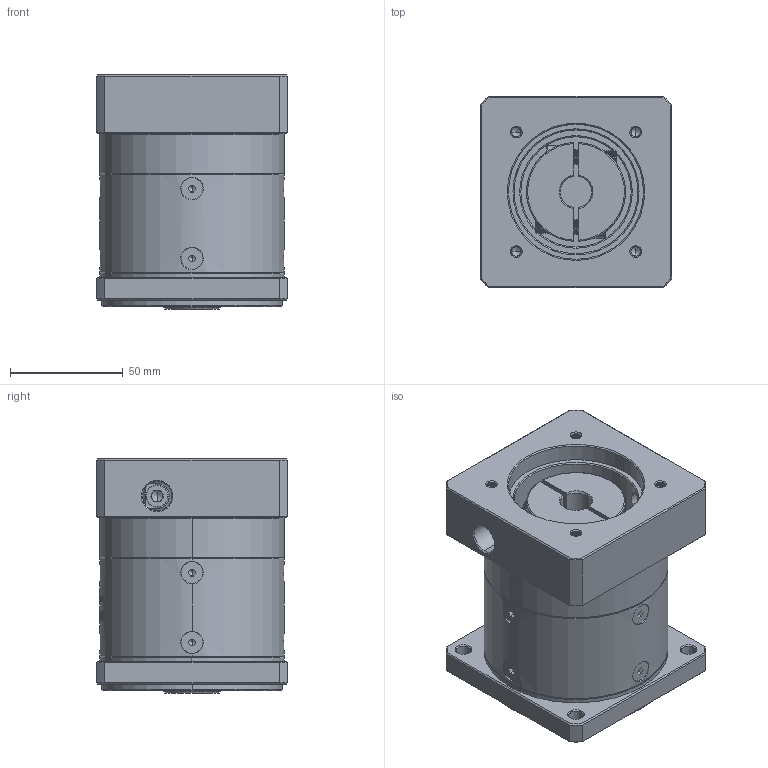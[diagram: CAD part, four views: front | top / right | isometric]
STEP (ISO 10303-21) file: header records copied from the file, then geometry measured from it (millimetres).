
FILE_DESCRIPTION (( 'STEP AP214' ), '1' );
FILE_NAME ('ZF80-K15-L1-14-60-75-M5.step', '2022-09-16T05:23:02', ( '' ), ( 'Microsoft' ), 'SwSTEP 2.0', 'SolidWorks 2016', '' );
FILE_SCHEMA (( 'AUTOMOTIVE_DESIGN' ));
Length unit declared in the file: millimetre
Products named in the file (1): ZF80-K15-L1-14-60-75-M5
Bounding box: 85 x 85 x 104 mm (x, y, z)
Volume: 539493.6 mm3; surface area: 86592 mm2
Topology: 13 solids, 13 shells, 1938 faces, 5022 edges, 3177 vertices
Faces by surface type: plane 889, cylinder 381, cone 341, bspline 310, torus 17
Entity records: 101926 total; most frequent: CARTESIAN_POINT 36678, ORIENTED_EDGE 9988, DIRECTION 7935, EDGE_CURVE 4994, VERTEX_POINT 3177, VECTOR 2727, LINE 2727, AXIS2_PLACEMENT_3D 2604
